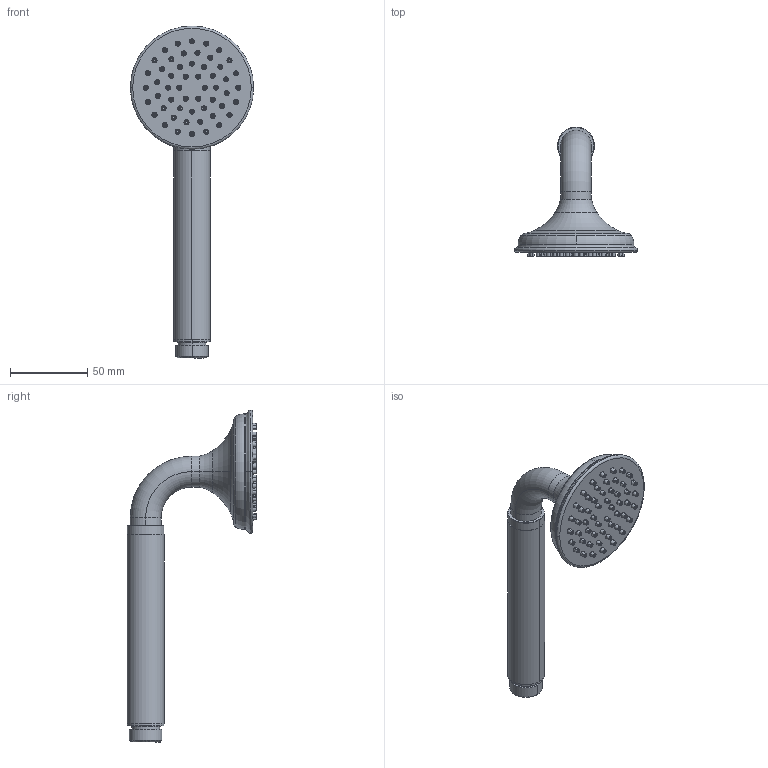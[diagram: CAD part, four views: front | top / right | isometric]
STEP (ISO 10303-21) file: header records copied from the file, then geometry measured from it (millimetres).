
FILE_DESCRIPTION((''),'2;1');
FILE_NAME('0000330271','2026-01-30T11:39:55',('Luca'),(''),'CREO PARAMETRIC BY PTC INC, 2025010','CREO PARAMETRIC BY PTC INC, 2025010','');
FILE_SCHEMA(('AUTOMOTIVE_DESIGN { 1 0 10303 214 1 1 1 1 }'));
Length unit declared in the file: millimetre
Products named in the file (1): 0000330271
Bounding box: 80 x 84.21 x 215.45 mm (x, y, z)
Volume: 70385.8 mm3; surface area: 59103.3 mm2
Topology: 1 solids, 6 shells, 1127 faces, 2834 edges, 1823 vertices
Faces by surface type: cone 462, torus 274, cylinder 214, plane 173, sphere 4
Entity records: 54578 total; most frequent: CARTESIAN_POINT 15825, DIRECTION 6073, ORIENTED_EDGE 5664, PRESENTATION_STYLE_ASSIGNMENT 3045, STYLED_ITEM 2834, CURVE_STYLE 2833, EDGE_CURVE 2832, AXIS2_PLACEMENT_3D 2675
